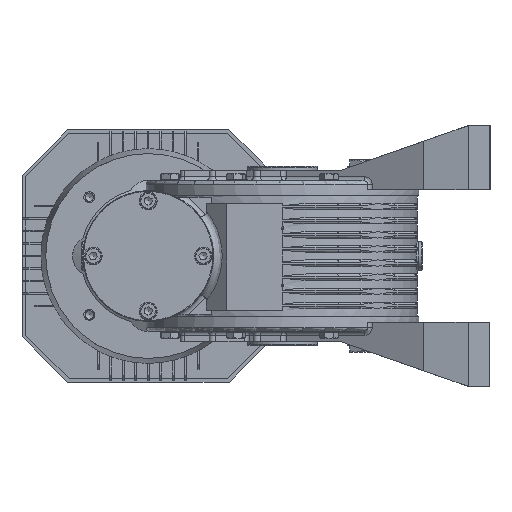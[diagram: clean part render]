
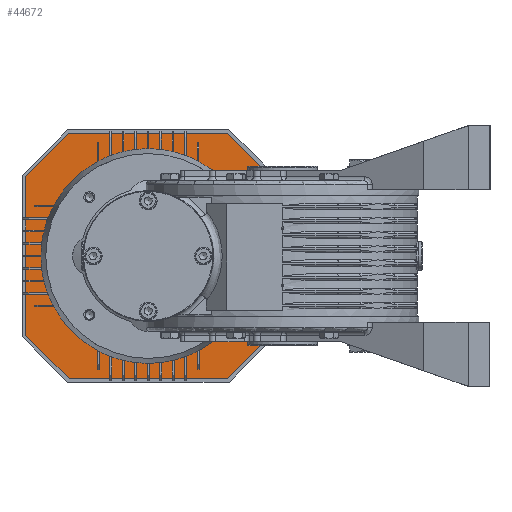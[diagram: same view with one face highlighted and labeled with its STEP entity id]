
A CAD part, left-side view. The second image highlights one B-rep face of the part: STEP entity #44672.
In plain terms, the highlighted planar face has unit normal (-1, 0, 0).
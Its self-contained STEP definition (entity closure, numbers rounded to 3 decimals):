
#43184=CARTESIAN_POINT('',(306.0,0.,57.2));
#43185=VERTEX_POINT('',#43184);
#43186=CARTESIAN_POINT('',(306.0,0.,0.));
#43187=DIRECTION('',(-1.0,0.0,0.0));
#43188=DIRECTION('',(0.0,0.0,-1.0));
#43189=AXIS2_PLACEMENT_3D('',#43186,#43187,#43188);
#43190=CIRCLE('',#43189,57.2);
#43191=EDGE_CURVE('',#43185,#43185,#43190,.T.);
#43212=CARTESIAN_POINT('',(306.0,-61.902,95.5));
#43213=VERTEX_POINT('',#43212);
#43214=CARTESIAN_POINT('',(306.0,61.902,95.5));
#43215=VERTEX_POINT('',#43214);
#43216=CARTESIAN_POINT('',(306.0,-61.902,95.5));
#43217=DIRECTION('',(0.0,1.0,0.0));
#43218=VECTOR('',#43217,123.804);
#43219=LINE('',#43216,#43218);
#43220=EDGE_CURVE('',#43213,#43215,#43219,.T.);
#43252=CARTESIAN_POINT('',(306.0,95.5,61.902));
#43253=VERTEX_POINT('',#43252);
#43254=CARTESIAN_POINT('',(306.0,61.902,95.5));
#43255=DIRECTION('',(0.0,0.707,-0.707));
#43256=VECTOR('',#43255,47.515);
#43257=LINE('',#43254,#43256);
#43258=EDGE_CURVE('',#43215,#43253,#43257,.T.);
#43283=CARTESIAN_POINT('',(306.0,95.5,-61.902));
#43284=VERTEX_POINT('',#43283);
#43285=CARTESIAN_POINT('',(306.0,95.5,61.902));
#43286=DIRECTION('',(0.0,0.0,-1.0));
#43287=VECTOR('',#43286,123.804);
#43288=LINE('',#43285,#43287);
#43289=EDGE_CURVE('',#43253,#43284,#43288,.T.);
#43314=CARTESIAN_POINT('',(306.0,61.902,-95.5));
#43315=VERTEX_POINT('',#43314);
#43316=CARTESIAN_POINT('',(306.0,95.5,-61.902));
#43317=DIRECTION('',(0.0,-0.707,-0.707));
#43318=VECTOR('',#43317,47.515);
#43319=LINE('',#43316,#43318);
#43320=EDGE_CURVE('',#43284,#43315,#43319,.T.);
#43345=CARTESIAN_POINT('',(306.0,-61.902,-95.5));
#43346=VERTEX_POINT('',#43345);
#43347=CARTESIAN_POINT('',(306.0,61.902,-95.5));
#43348=DIRECTION('',(0.0,-1.0,0.0));
#43349=VECTOR('',#43348,123.804);
#43350=LINE('',#43347,#43349);
#43351=EDGE_CURVE('',#43315,#43346,#43350,.T.);
#43376=CARTESIAN_POINT('',(306.0,-95.5,-61.902));
#43377=VERTEX_POINT('',#43376);
#43378=CARTESIAN_POINT('',(306.0,-61.902,-95.5));
#43379=DIRECTION('',(0.0,-0.707,0.707));
#43380=VECTOR('',#43379,47.515);
#43381=LINE('',#43378,#43380);
#43382=EDGE_CURVE('',#43346,#43377,#43381,.T.);
#43407=CARTESIAN_POINT('',(306.0,-95.5,61.902));
#43408=VERTEX_POINT('',#43407);
#43409=CARTESIAN_POINT('',(306.0,-95.5,-61.902));
#43410=DIRECTION('',(0.0,0.0,1.0));
#43411=VECTOR('',#43410,123.804);
#43412=LINE('',#43409,#43411);
#43413=EDGE_CURVE('',#43377,#43408,#43412,.T.);
#43438=CARTESIAN_POINT('',(306.0,-95.5,61.902));
#43439=DIRECTION('',(0.0,0.707,0.707));
#43440=VECTOR('',#43439,47.515);
#43441=LINE('',#43438,#43440);
#43442=EDGE_CURVE('',#43408,#43213,#43441,.T.);
#44654=CARTESIAN_POINT('',(306.0,0.,0.));
#44655=DIRECTION('',(1.0,0.0,0.0));
#44656=DIRECTION('',(0.0,0.0,-1.0));
#44657=AXIS2_PLACEMENT_3D('',#44654,#44655,#44656);
#44658=PLANE('',#44657);
#44659=ORIENTED_EDGE('',*,*,#43220,.T.);
#44660=ORIENTED_EDGE('',*,*,#43258,.T.);
#44661=ORIENTED_EDGE('',*,*,#43289,.T.);
#44662=ORIENTED_EDGE('',*,*,#43320,.T.);
#44663=ORIENTED_EDGE('',*,*,#43351,.T.);
#44664=ORIENTED_EDGE('',*,*,#43382,.T.);
#44665=ORIENTED_EDGE('',*,*,#43413,.T.);
#44666=ORIENTED_EDGE('',*,*,#43442,.T.);
#44667=EDGE_LOOP('',(#44659,#44660,#44661,#44662,#44663,#44664,#44665,#44666));
#44668=FACE_OUTER_BOUND('',#44667,.T.);
#44669=ORIENTED_EDGE('',*,*,#43191,.F.);
#44670=EDGE_LOOP('',(#44669));
#44671=FACE_BOUND('',#44670,.T.);
#44672=ADVANCED_FACE('',(#44668,#44671),#44658,.F.);
